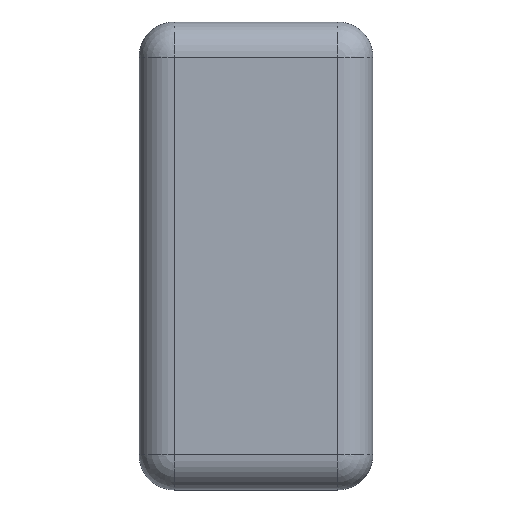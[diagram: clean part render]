
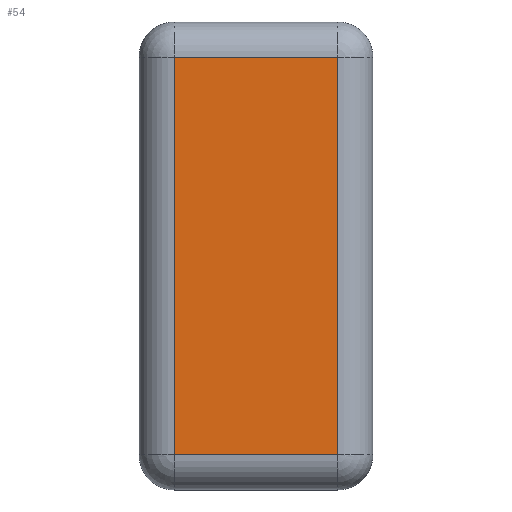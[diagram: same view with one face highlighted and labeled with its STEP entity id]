
A CAD part, top view. The second image highlights one B-rep face of the part: STEP entity #54.
In plain terms, the highlighted planar face has unit normal (0, 0, 1).
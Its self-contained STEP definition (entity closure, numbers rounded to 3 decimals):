
#54 = ADVANCED_FACE( '', ( #81 ), #82, .T. );
#81 = FACE_OUTER_BOUND( '', #117, .T. );
#82 = PLANE( '', #118 );
#117 = EDGE_LOOP( '', ( #195, #196, #197, #198 ) );
#118 = AXIS2_PLACEMENT_3D( '', #199, #200, #201 );
#195 = ORIENTED_EDGE( '', *, *, #287, .T. );
#196 = ORIENTED_EDGE( '', *, *, #288, .F. );
#197 = ORIENTED_EDGE( '', *, *, #267, .T. );
#198 = ORIENTED_EDGE( '', *, *, #289, .T. );
#199 = CARTESIAN_POINT( '', ( 10., 10., 2.5 ) );
#200 = DIRECTION( '', ( 0., 0., 1. ) );
#201 = DIRECTION( '', ( 1., 0., 0. ) );
#267 = EDGE_CURVE( '', #307, #308, #309, .T. );
#287 = EDGE_CURVE( '', #340, #341, #342, .T. );
#288 = EDGE_CURVE( '', #307, #341, #343, .T. );
#289 = EDGE_CURVE( '', #308, #340, #344, .T. );
#307 = VERTEX_POINT( '', #367 );
#308 = VERTEX_POINT( '', #368 );
#309 = LINE( '', #369, #370 );
#340 = VERTEX_POINT( '', #410 );
#341 = VERTEX_POINT( '', #411 );
#342 = LINE( '', #412, #413 );
#343 = LINE( '', #414, #415 );
#344 = LINE( '', #416, #417 );
#367 = CARTESIAN_POINT( '', ( 8.5, 18.5, 2.5 ) );
#368 = CARTESIAN_POINT( '', ( 1.5, 18.5, 2.5 ) );
#369 = CARTESIAN_POINT( '', ( 10., 18.5, 2.5 ) );
#370 = VECTOR( '', #435, 1000. );
#410 = CARTESIAN_POINT( '', ( 1.5, 1.5, 2.5 ) );
#411 = CARTESIAN_POINT( '', ( 8.5, 1.5, 2.5 ) );
#412 = CARTESIAN_POINT( '', ( 5., 1.5, 2.5 ) );
#413 = VECTOR( '', #475, 1000. );
#414 = CARTESIAN_POINT( '', ( 8.5, 10., 2.5 ) );
#415 = VECTOR( '', #476, 1000. );
#416 = CARTESIAN_POINT( '', ( 1.5, 10., 2.5 ) );
#417 = VECTOR( '', #477, 1000. );
#435 = DIRECTION( '', ( -1., 0., 0. ) );
#475 = DIRECTION( '', ( 1., 0., 0. ) );
#476 = DIRECTION( '', ( 0., -1., 0. ) );
#477 = DIRECTION( '', ( 0., -1., 0. ) );
